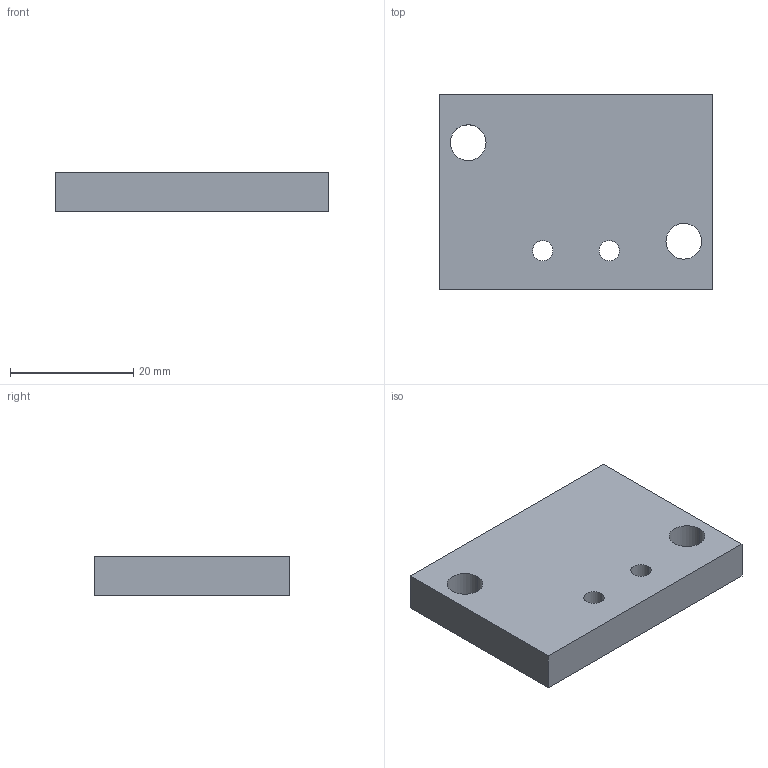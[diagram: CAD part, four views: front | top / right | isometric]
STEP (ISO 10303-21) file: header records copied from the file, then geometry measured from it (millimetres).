
FILE_DESCRIPTION (( 'STEP AP214' ), '1' );
FILE_NAME ('RTI-GMP-20.STEP', '2013-10-22T14:17:01', ( 'user' ), ( '' ), 'SwSTEP 2.0', 'SolidWorks 2009', '' );
FILE_SCHEMA (( 'AUTOMOTIVE_DESIGN' ));
Length unit declared in the file: inch
Products named in the file (1): RTI-GMP-20
Bounding box: 44.45 x 31.75 x 6.35 mm (x, y, z)
Volume: 8512 mm3; surface area: 4050.8 mm2
Topology: 1 solids, 1 shells, 309 faces, 807 edges, 538 vertices
Faces by surface type: plane 207, bspline 94, cylinder 8
Entity records: 18728 total; most frequent: CARTESIAN_POINT 7957, ORIENTED_EDGE 1614, DIRECTION 1067, EDGE_CURVE 807, LINE 603, VECTOR 603, VERTEX_POINT 538, EDGE_LOOP 355
